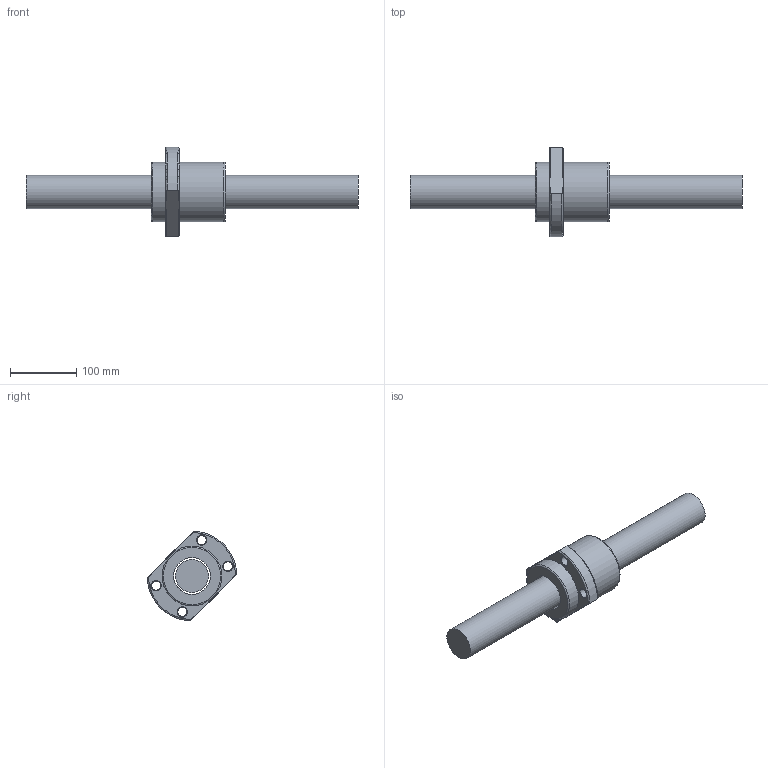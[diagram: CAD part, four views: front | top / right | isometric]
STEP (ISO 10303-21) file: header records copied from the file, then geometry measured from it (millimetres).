
FILE_DESCRIPTION (( 'STEP AP203' ), '1' );
FILE_NAME ('SFYA050100-1.6.step', '2024-05-22T07:52:47', ( '' ), ( '' ), 'SwSTEP 2.0', 'SolidWorks 2022', '' );
FILE_SCHEMA (( 'CONFIG_CONTROL_DESIGN' ));
Length unit declared in the file: millimetre
Products named in the file (1): SFYA050100-1.6
Bounding box: 500 x 134.91 x 134.91 mm (x, y, z)
Volume: 1509444.5 mm3; surface area: 155059.6 mm2
Topology: 2 solids, 2 shells, 49 faces, 118 edges, 75 vertices
Faces by surface type: cylinder 17, plane 13, cone 9, torus 6, bspline 4
Full cylindrical faces by diameter (mm): 4 x1, 5 x5, 14 x4, 50 x1, 55.1 x1, 90 x2
Entity records: 3041 total; most frequent: CARTESIAN_POINT 2080, DIRECTION 170, ORIENTED_EDGE 156, EDGE_LOOP 80, EDGE_CURVE 78, AXIS2_PLACEMENT_3D 77, VERTEX_POINT 62, FACE_OUTER_BOUND 57
